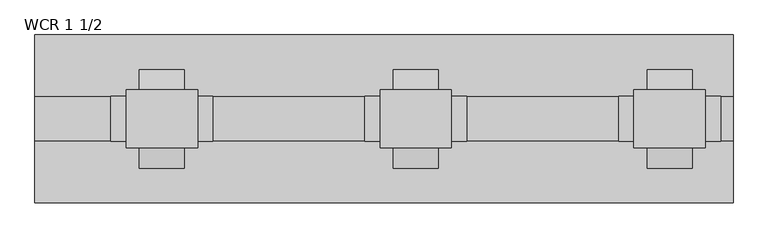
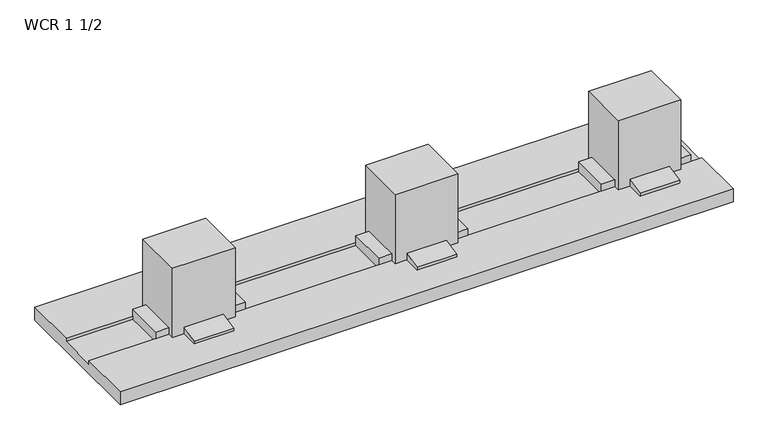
"""IFC4 building model written with IfcOpenShell, lengths in millimetres: proxy geometry, Duct-Walkercell-Wiremold : WCR 1 1/2."""

from ifc_helpers import new_model, si_unit, frame, origin, place, context, project, spatial, polyline, outline, extrude, faceted_brep, source, transform, mapped, element, save


def wcr_1_1_2_d09134c4(model_context):
    return source(origin(), model_context, "Body", "SolidModel", [
        faceted_brep([(1438.275, 69.85, 200.025), (1438.275, -69.85, 200.025), (1609.725, -69.85, 200.025), (1609.725, 69.85, 200.025), (1401.7625, -53.975, -9.525), (1401.7625, 53.975, -9.525), (1646.2375, 53.975, -9.525), (1646.2375, -53.975, -9.525), (1609.725, 53.975, 0.0), (1438.275, 53.975, 0.0), (1438.275, 69.85, 0.0), (1470.025, 69.85, 0.0), (1470.025, 118.2751, 0.0), (1577.975, 118.2751, 0.0), (1577.975, 69.85, 0.0), (1609.725, 69.85, 0.0), (1609.725, 53.975, 19.05), (1646.2375, 53.975, 19.05), (1401.7625, 53.975, 19.05), (1438.275, 53.975, 19.05), (1438.275, -53.975, 0.0), (1609.725, -53.975, 0.0), (1609.725, -69.85, 0.0), (1577.975, -69.85, 0.0), (1577.975, -118.2751, 0.0), (1470.025, -118.2751, 0.0), (1470.025, -69.85, 0.0), (1438.275, -69.85, 0.0), (1438.275, -53.975, 19.05), (1401.7625, -53.975, 19.05), (1646.2375, -53.975, 19.05), (1609.725, -53.975, 19.05), (1470.025, -69.85, 19.05), (1577.975, -69.85, 19.05), (1577.975, 69.85, 19.05), (1470.025, 69.85, 19.05), (1577.975, 118.2751, 7.9375), (1577.975, -118.2751, 7.9375), (1470.025, 118.2751, 7.9375), (1470.025, -118.2751, 7.9375)], [[[0, 1, 2, 3]], [[4, 5, 6, 7]], [[8, 9, 10, 11, 12, 13, 14, 15]], [[9, 8, 16, 17, 6, 5, 18, 19]], [[20, 21, 22, 23, 24, 25, 26, 27]], [[21, 20, 28, 29, 4, 7, 30, 31]], [[1, 0, 10, 9, 19, 28, 20, 27]], [[2, 1, 27, 26, 32, 33, 23, 22]], [[3, 2, 22, 21, 31, 16, 8, 15]], [[0, 3, 15, 14, 34, 35, 11, 10]], [[31, 30, 17, 16]], [[18, 29, 28, 19]], [[29, 18, 5, 4]], [[17, 30, 7, 6]], [[36, 34, 14, 13]], [[37, 24, 23, 33]], [[38, 12, 11, 35]], [[39, 32, 26, 25]], [[34, 36, 38, 35]], [[36, 13, 12, 38]], [[24, 37, 39, 25]], [[37, 33, 32, 39]]]),
        faceted_brep([(828.675, 69.85, 200.025), (828.675, -69.85, 200.025), (1000.125, -69.85, 200.025), (1000.125, 69.85, 200.025), (792.1625, -53.975, -9.525), (792.1625, 53.975, -9.525), (1036.6375, 53.975, -9.525), (1036.6375, -53.975, -9.525), (1000.125, 53.975, 0.0), (828.675, 53.975, 0.0), (828.675, 69.85, 0.0), (860.425, 69.85, 0.0), (860.425, 118.2751, 0.0), (968.375, 118.2751, 0.0), (968.375, 69.85, 0.0), (1000.125, 69.85, 0.0), (1000.125, 53.975, 19.05), (1036.6375, 53.975, 19.05), (792.1625, 53.975, 19.05), (828.675, 53.975, 19.05), (828.675, -53.975, 0.0), (1000.125, -53.975, 0.0), (1000.125, -69.85, 0.0), (968.375, -69.85, 0.0), (968.375, -118.2751, 0.0), (860.425, -118.2751, 0.0), (860.425, -69.85, 0.0), (828.675, -69.85, 0.0), (828.675, -53.975, 19.05), (792.1625, -53.975, 19.05), (1036.6375, -53.975, 19.05), (1000.125, -53.975, 19.05), (860.425, -69.85, 19.05), (968.375, -69.85, 19.05), (968.375, 69.85, 19.05), (860.425, 69.85, 19.05), (968.375, 118.2751, 7.9375), (968.375, -118.2751, 7.9375), (860.425, 118.2751, 7.9375), (860.425, -118.2751, 7.9375)], [[[0, 1, 2, 3]], [[4, 5, 6, 7]], [[8, 9, 10, 11, 12, 13, 14, 15]], [[9, 8, 16, 17, 6, 5, 18, 19]], [[20, 21, 22, 23, 24, 25, 26, 27]], [[21, 20, 28, 29, 4, 7, 30, 31]], [[1, 0, 10, 9, 19, 28, 20, 27]], [[2, 1, 27, 26, 32, 33, 23, 22]], [[3, 2, 22, 21, 31, 16, 8, 15]], [[0, 3, 15, 14, 34, 35, 11, 10]], [[31, 30, 17, 16]], [[18, 29, 28, 19]], [[29, 18, 5, 4]], [[17, 30, 7, 6]], [[36, 34, 14, 13]], [[37, 24, 23, 33]], [[38, 12, 11, 35]], [[39, 32, 26, 25]], [[34, 36, 38, 35]], [[36, 13, 12, 38]], [[24, 37, 39, 25]], [[37, 33, 32, 39]]]),
        faceted_brep([(219.075, 69.85, 200.025), (219.075, -69.85, 200.025), (390.525, -69.85, 200.025), (390.525, 69.85, 200.025), (182.5625, -53.975, -9.525), (182.5625, 53.975, -9.525), (427.0375, 53.975, -9.525), (427.0375, -53.975, -9.525), (390.525, 53.975, 0.0), (219.075, 53.975, 0.0), (219.075, 69.85, 0.0), (250.825, 69.85, 0.0), (250.825, 118.2751, 0.0), (358.775, 118.2751, 0.0), (358.775, 69.85, 0.0), (390.525, 69.85, 0.0), (390.525, 53.975, 19.05), (427.0375, 53.975, 19.05), (182.5625, 53.975, 19.05), (219.075, 53.975, 19.05), (219.075, -53.975, 0.0), (390.525, -53.975, 0.0), (390.525, -69.85, 0.0), (358.775, -69.85, 0.0), (358.775, -118.2751, 0.0), (250.825, -118.2751, 0.0), (250.825, -69.85, 0.0), (219.075, -69.85, 0.0), (219.075, -53.975, 19.05), (182.5625, -53.975, 19.05), (427.0375, -53.975, 19.05), (390.525, -53.975, 19.05), (250.825, -69.85, 19.05), (358.775, -69.85, 19.05), (358.775, 69.85, 19.05), (250.825, 69.85, 19.05), (358.775, 118.2751, 7.9375), (358.775, -118.2751, 7.9375), (250.825, 118.2751, 7.9375), (250.825, -118.2751, 7.9375)], [[[0, 1, 2, 3]], [[4, 5, 6, 7]], [[8, 9, 10, 11, 12, 13, 14, 15]], [[9, 8, 16, 17, 6, 5, 18, 19]], [[20, 21, 22, 23, 24, 25, 26, 27]], [[21, 20, 28, 29, 4, 7, 30, 31]], [[1, 0, 10, 9, 19, 28, 20, 27]], [[2, 1, 27, 26, 32, 33, 23, 22]], [[3, 2, 22, 21, 31, 16, 8, 15]], [[0, 3, 15, 14, 34, 35, 11, 10]], [[31, 30, 17, 16]], [[18, 29, 28, 19]], [[29, 18, 5, 4]], [[17, 30, 7, 6]], [[36, 34, 14, 13]], [[37, 24, 23, 33]], [[38, 12, 11, 35]], [[39, 32, 26, 25]], [[34, 36, 38, 35]], [[36, 13, 12, 38]], [[24, 37, 39, 25]], [[37, 33, 32, 39]]]),
        extrude(outline(polyline([(-53.975, 0.0), (-53.975, -9.525), (53.975, -9.525), (53.975, 0.0), (201.6125, 0.0), (201.6125, -38.1), (-201.6125, -38.1), (-201.6125, 0.0), (-53.975, 0.0)])), frame((0.0, 0.0, 0.0), z_axis=(1.0, 0.0, 0.0), x_axis=(0.0, 1.0, 0.0)), (0.0, 0.0, 1.0), 1676.4),
    ])


if __name__ == "__main__":
    model = new_model("IFC4")
    model_context = context("Model", 3, world=origin())
    ifc_project = project(units=[si_unit("LENGTHUNIT", "METRE", prefix="MILLI")], contexts=[model_context])
    site = spatial("IfcSite", under=ifc_project)
    building = spatial("IfcBuilding", under=site)
    placement = place(None, origin())
    wcr_1_1_2_shape = wcr_1_1_2_d09134c4(model_context)
    element("IfcBuildingElementProxy", 1, Name="Duct-Walkercell-Wiremold : WCR 1 1/2", ObjectType="Duct-Walkercell-Wiremold : WCR 1 1/2", at=placement, inside=building, context=model_context, shape_type="MappedRepresentation", body=[
        mapped(wcr_1_1_2_shape, transform((0.0, 0.0, 0.0), x_axis=(1.0, 0.0, 0.0), y_axis=(0.0, 1.0, 0.0), z_axis=(0.0, 0.0, 1.0))),
    ])
    save(model, "model.ifc")
